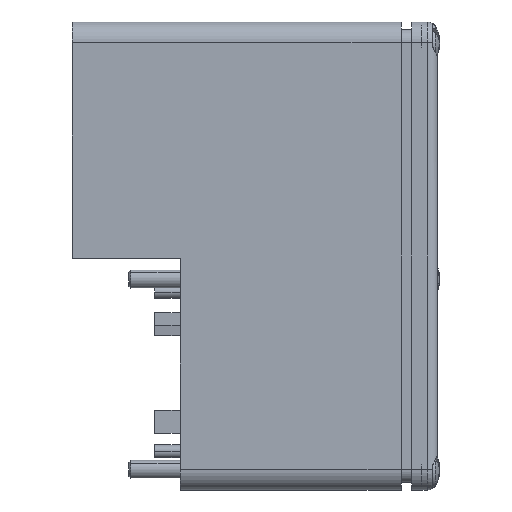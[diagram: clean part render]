
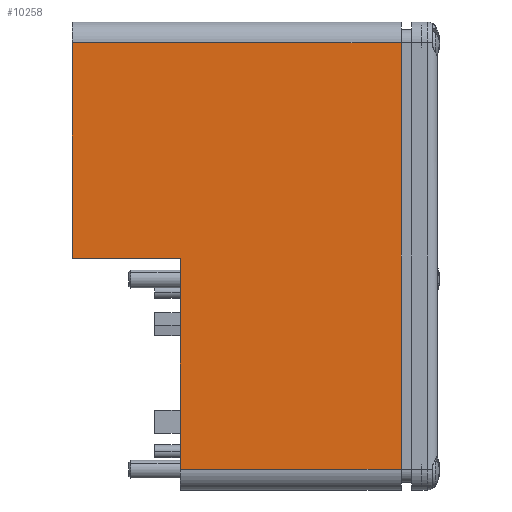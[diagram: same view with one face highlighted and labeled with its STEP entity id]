
A CAD part, left-side view. The second image highlights one B-rep face of the part: STEP entity #10258.
In plain terms, the highlighted planar face has unit normal (-1, 0, 0).
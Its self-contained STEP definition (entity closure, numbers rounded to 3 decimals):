
#9137=CARTESIAN_POINT('POS3132',(-4.,-14.5,41.5));
#9138=DIRECTION('DIR4610',(1.,0.,0.));
#9139=DIRECTION('DIR4611',(0.,1.,0.));
#9140=AXIS2_PLACEMENT_3D('AXIS1479',#9137,#9138,#9139);
#9141=PLANE('PLANE738',#9140);
#9440=CARTESIAN_POINT('POINT2627',(-4.,21.,41.));
#9441=VERTEX_POINT('VERTEX2627',#9440);
#9448=CARTESIAN_POINT('POINT2628',(-4.,21.,83.));
#9449=VERTEX_POINT('VERTEX2628',#9448);
#9450=CARTESIAN_POINT('POS3164',(-4.,21.,41.5));
#9451=DIRECTION('DIR4665',(0.,0.,1.));
#9452=VECTOR('VEC1663',#9451,1.);
#9453=LINE('STRAIGHT1663',#9450,#9452);
#9454=EDGE_CURVE('EDGE4142',#9441,#9449,#9453,.T.);
#10075=CARTESIAN_POINT('POINT2667',(-4.,-42.95,83.));
#10076=VERTEX_POINT('VERTEX2667',#10075);
#10091=CARTESIAN_POINT('POS3236',(-4.,21.,83.));
#10092=DIRECTION('DIR4774',(0.,1.,0.));
#10093=VECTOR('VEC1698',#10092,1.);
#10094=LINE('STRAIGHT1698',#10091,#10093);
#10095=EDGE_CURVE('EDGE4203',#10076,#9449,#10094,.T.);
#10208=CARTESIAN_POINT('POINT2676',(-4.,0.,
   41.));
#10209=VERTEX_POINT('VERTEX2676',#10208);
#10216=CARTESIAN_POINT('POS3251',(-4.,-2.,41.));
#10217=DIRECTION('DIR4792',(0.,-1.,0.));
#10218=VECTOR('VEC1710',#10217,1.);
#10219=LINE('STRAIGHT1710',#10216,#10218);
#10220=EDGE_CURVE('EDGE4216',#9441,#10209,#10219,.T.);
#10231=ORIENTED_EDGE('COEDGE8384',*,*,#10220,.T.);
#10232=CARTESIAN_POINT('POINT2677',(-4.,0.,0.));
#10233=VERTEX_POINT('VERTEX2677',#10232);
#10234=CARTESIAN_POINT('POS3253',(-4.,0.,
   30.));
#10235=DIRECTION('DIR4795',(0.,0.,-1.));
#10236=VECTOR('VEC1711',#10235,1.);
#10237=LINE('STRAIGHT1711',#10234,#10236);
#10238=EDGE_CURVE('EDGE4217',#10209,#10233,#10237,.T.);
#10239=ORIENTED_EDGE('COEDGE8385',*,*,#10238,.T.);
#10240=CARTESIAN_POINT('POINT2678',(-4.,-42.95,0.));
#10241=VERTEX_POINT('VERTEX2678',#10240);
#10242=CARTESIAN_POINT('POS3254',(-4.,21.,0.));
#10243=DIRECTION('DIR4796',(0.,1.,0.));
#10244=VECTOR('VEC1712',#10243,1.);
#10245=LINE('STRAIGHT1712',#10242,#10244);
#10246=EDGE_CURVE('EDGE4218',#10241,#10233,#10245,.T.);
#10247=ORIENTED_EDGE('COEDGE8386',*,*,#10246,.F.);
#10248=CARTESIAN_POINT('POS3255',(-4.,-42.95,64.25));
#10249=DIRECTION('DIR4797',(0.,0.,1.));
#10250=VECTOR('VEC1713',#10249,1.);
#10251=LINE('STRAIGHT1713',#10248,#10250);
#10252=EDGE_CURVE('EDGE4219',#10241,#10076,#10251,.T.);
#10253=ORIENTED_EDGE('COEDGE8387',*,*,#10252,.T.);
#10254=ORIENTED_EDGE('COEDGE8388',*,*,#10095,.T.);
#10255=ORIENTED_EDGE('COEDGE8389',*,*,#9454,.F.);
#10256=EDGE_LOOP('NONE',(#10231,#10239,#10247,#10253,#10254,#10255));
#10257=FACE_BOUND('LOOP1',#10256,.T.);
#10258=ADVANCED_FACE('FACE1662',(#10257),#9141,.F.);
